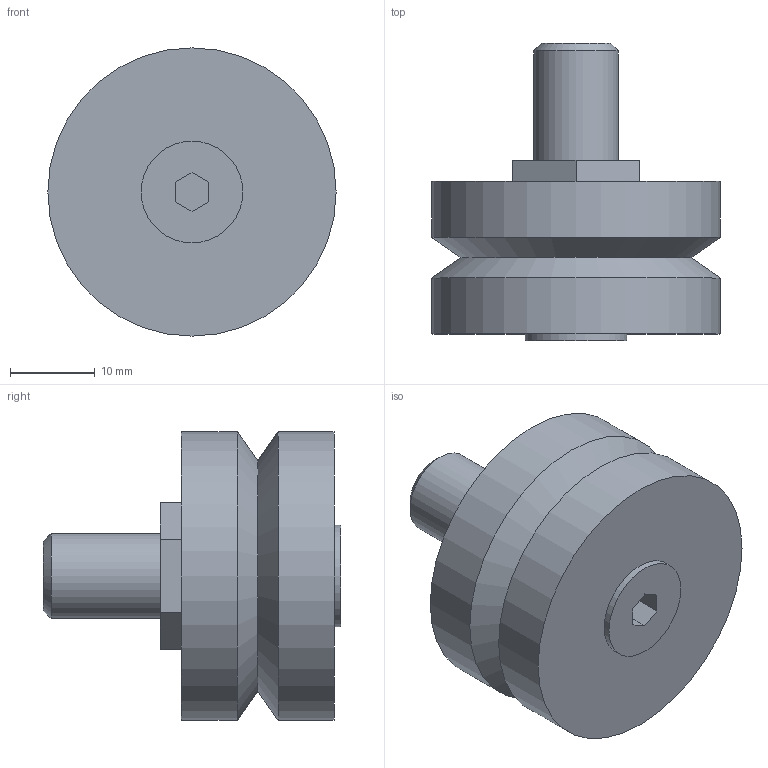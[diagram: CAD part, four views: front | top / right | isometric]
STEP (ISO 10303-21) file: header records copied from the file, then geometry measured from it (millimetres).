
FILE_DESCRIPTION(/* description */ ('STEP AP203'),/* implementation_level */ '2;1');
FILE_NAME(/* name */ 'RBHJ34C',/* time_stamp */ '2022-06-02T06:31:32+02:00',/* author */ ('License CC BY-ND 4.0'),/* organization */ ('CADENAS'),/* preprocessor_version */ 'ST-DEVELOPER v18.102',/* originating_system */ 'PARTsolutions',/* authorisation */ ' ');
FILE_SCHEMA (('CONFIG_CONTROL_DESIGN','TECHNICAL_DATA_PACKAGING'));
Length unit declared in the file: millimetre
Products named in the file (1): RBHJ34C
Bounding box: 34 x 35.1 x 34 mm (x, y, z)
Volume: 17113.1 mm3; surface area: 4661 mm2
Topology: 1 solids, 1 shells, 25 faces, 54 edges, 35 vertices
Faces by surface type: plane 18, cylinder 4, cone 3
Full cylindrical faces by diameter (mm): 10 x1, 12 x1, 34 x2
Entity records: 660 total; most frequent: DIRECTION 108, CARTESIAN_POINT 106, ORIENTED_EDGE 92, EDGE_CURVE 46, LINE 36, VECTOR 36, EDGE_LOOP 36, FACE_BOUND 36
